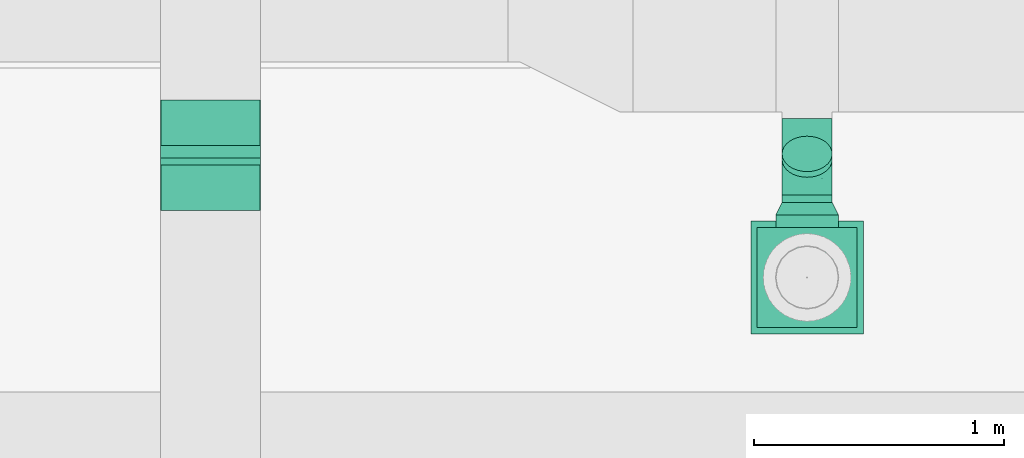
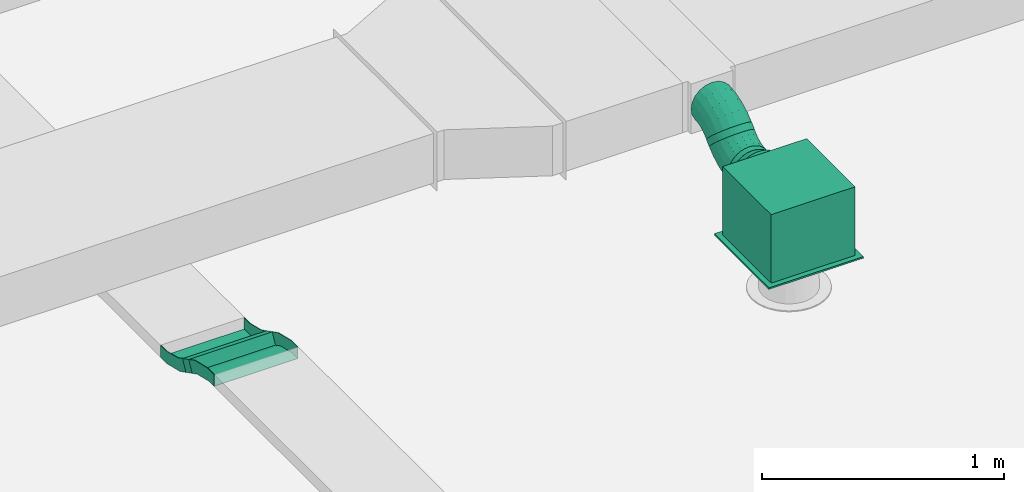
# One storey, part 276 of 302: 5 flow fittings, 3 flow segments, 1 flow terminal.
"""IFC2X3 building model written with IfcOpenShell, lengths in metres."""

from ifc_helpers import new_model, entity, si_unit, converted_unit, derived_unit, direction, frame, frame_2d, origin, origin_2d_with_axis, place, context, subcontext, project, spatial, rectangle, circle, extrude, faceted_brep, source, transform, mapped, material, material_list, type_object, type_shapes, element, save


model = new_model("IFC2X3")

# Units and contexts
model_context = context("Model", 3, precision=1e-05, world=origin(), true_north=direction((6.12303176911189e-17, 1.0)))
body_context = subcontext(model_context, "Body", "Model", "MODEL_VIEW")
ifc_project = project(units=[si_unit("LENGTHUNIT", "METRE"), si_unit("AREAUNIT", "SQUARE_METRE"), si_unit("VOLUMEUNIT", "CUBIC_METRE"), converted_unit("PLANEANGLEUNIT", "DEGREE", entity("IfcRatioMeasure", 0.0174532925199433), si_unit("PLANEANGLEUNIT", "RADIAN"), dimensions=[0, 0, 0, 0, 0, 0, 0]), si_unit("MASSUNIT", "GRAM", prefix="KILO"), derived_unit("MASSDENSITYUNIT", [(si_unit("MASSUNIT", "GRAM", prefix="KILO"), 1), (si_unit("LENGTHUNIT", "METRE"), -3)]), derived_unit("MOMENTOFINERTIAUNIT", [(si_unit("LENGTHUNIT", "METRE"), 4)]), si_unit("TIMEUNIT", "SECOND"), si_unit("FREQUENCYUNIT", "HERTZ"), si_unit("THERMODYNAMICTEMPERATUREUNIT", "DEGREE_CELSIUS"), derived_unit("THERMALTRANSMITTANCEUNIT", [(si_unit("MASSUNIT", "GRAM", prefix="KILO"), 1), (si_unit("THERMODYNAMICTEMPERATUREUNIT", "KELVIN"), -1), (si_unit("TIMEUNIT", "SECOND"), -3)]), derived_unit("VOLUMETRICFLOWRATEUNIT", [(si_unit("LENGTHUNIT", "METRE"), 3), (si_unit("TIMEUNIT", "SECOND"), -1)]), si_unit("ELECTRICCURRENTUNIT", "AMPERE"), si_unit("ELECTRICVOLTAGEUNIT", "VOLT"), si_unit("POWERUNIT", "WATT"), si_unit("FORCEUNIT", "NEWTON", prefix="KILO"), si_unit("ILLUMINANCEUNIT", "LUX"), si_unit("LUMINOUSFLUXUNIT", "LUMEN"), si_unit("LUMINOUSINTENSITYUNIT", "CANDELA"), derived_unit("USERDEFINED", [(si_unit("MASSUNIT", "GRAM", prefix="KILO"), -1), (si_unit("LENGTHUNIT", "METRE"), -2), (si_unit("TIMEUNIT", "SECOND"), 3), (si_unit("LUMINOUSFLUXUNIT", "LUMEN"), 1)]), derived_unit("LINEARVELOCITYUNIT", [(si_unit("LENGTHUNIT", "METRE"), 1), (si_unit("TIMEUNIT", "SECOND"), -1)]), si_unit("PRESSUREUNIT", "PASCAL"), derived_unit("USERDEFINED", [(si_unit("LENGTHUNIT", "METRE"), -2), (si_unit("MASSUNIT", "GRAM", prefix="KILO"), 1), (si_unit("TIMEUNIT", "SECOND"), -2)]), derived_unit("LINEARFORCEUNIT", [(si_unit("MASSUNIT", "GRAM", prefix="KILO"), 1), (si_unit("LENGTHUNIT", "METRE"), 1), (si_unit("TIMEUNIT", "SECOND"), -2), (si_unit("LENGTHUNIT", "METRE"), -1)]), derived_unit("PLANARFORCEUNIT", [(si_unit("MASSUNIT", "GRAM", prefix="KILO"), 1), (si_unit("LENGTHUNIT", "METRE"), 1), (si_unit("TIMEUNIT", "SECOND"), -2), (si_unit("LENGTHUNIT", "METRE"), -2)])], contexts=[model_context])

# Site, building, storey
site_placement = place(None, origin())
site = spatial("IfcSite", under=ifc_project, at=site_placement, Name="Default", CompositionType="ELEMENT")
building_placement = place(site_placement, origin())
building = spatial("IfcBuilding", under=site, at=building_placement, CompositionType="ELEMENT")
storey_placement = place(building_placement, frame((0.0, 0.0, -1.3)))
storey = spatial("IfcBuildingStorey", under=building, at=storey_placement, Name="00_EG", CompositionType="ELEMENT", Elevation=-1.3)

# Flow segment
cable_carrier_segment_type = type_object("IfcCableCarrierSegmentType", Name="Kabeltrasse mit Formteilen:Channel Cable Tray", PredefinedType="CABLETRAYSEGMENT")
flow_segment_1_placement = place(storey_placement, origin())
element("IfcFlowSegment", 1, at=flow_segment_1_placement, inside=storey, type_object=cable_carrier_segment_type, Name="Kabeltrasse mit Formteilen:Channel Cable Tray", ObjectType="Kabeltrasse mit Formteilen:Channel Cable Tray", context=body_context, shape_type="SweptSolid", body=[
    extrude(rectangle(XDim=0.0600000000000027, YDim=0.0578549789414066, at=frame_2d((1.80584713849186e-15, 1.22471477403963e-15), x_axis=(0.0, 1.0))), frame((-236.972611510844, 21.4502536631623, 4.79), z_axis=(1.0, 0.0, 0.0), x_axis=(0.0, -0.891006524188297, 0.453990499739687)), (0.0, 0.0, 1.0), 0.399999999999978),
])

# Flow fittings
ifc_material = material(Name="<Unnamed>")
cable_carrier_fitting_type_1 = type_object("IfcCableCarrierFittingType", Name="Kabeltrasse - Bogen außen vertikal:Standard", PredefinedType="NOTDEFINED", material=ifc_material)
shared_shape_1 = source(origin(), body_context, "Body", "Brep", [
    faceted_brep([(-0.103233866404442, -0.0300000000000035, 0.199999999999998), (-0.103233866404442, 0.0299999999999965, 0.199999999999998), (-0.103233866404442, 0.0299999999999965, -0.200000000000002), (-0.103233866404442, -0.0300000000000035, -0.200000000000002), (-0.103233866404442, -0.0300000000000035, -0.197460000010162), (-0.103233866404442, 0.0274600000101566, -0.197460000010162), (-0.103233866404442, 0.0274600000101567, 0.197460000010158), (-0.103233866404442, -0.0300000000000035, 0.197460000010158), (0.105601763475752, 0.0201369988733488, 0.199999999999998), (0.105601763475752, 0.0201369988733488, 0.197460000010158), (0.0795154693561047, 0.071334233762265, 0.197460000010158), (0.0795154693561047, 0.071334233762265, -0.197460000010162), (0.105601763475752, 0.0201369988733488, -0.197460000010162), (0.105601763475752, 0.0201369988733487, -0.200000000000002), (0.0783623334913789, 0.0735973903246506, -0.200000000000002), (0.0783623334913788, 0.0735973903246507, 0.199999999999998), (-0.0487892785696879, -0.0300000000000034, 0.199999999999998), (0.0570912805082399, -0.00458032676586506, 0.199999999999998), (0.036179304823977, 0.052104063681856, 0.199999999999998), (-0.0558907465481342, 0.0299999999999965, 0.199999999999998), (-0.0558907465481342, 0.0299999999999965, -0.200000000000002), (0.036179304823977, 0.052104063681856, -0.200000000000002), (0.0570912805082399, -0.00458032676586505, -0.200000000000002), (-0.0487892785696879, -0.0300000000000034, -0.200000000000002), (-0.0487892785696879, -0.0300000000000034, -0.197460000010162), (0.0570912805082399, -0.00458032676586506, -0.197460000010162), (0.0370645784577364, 0.0497044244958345, -0.197460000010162), (-0.0555901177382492, 0.0274600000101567, -0.197460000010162), (-0.0555901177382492, 0.0274600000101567, 0.197460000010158), (0.0370645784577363, 0.0497044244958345, 0.197460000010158), (0.0570912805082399, -0.00458032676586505, 0.197460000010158), (-0.0487892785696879, -0.0300000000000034, 0.197460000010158)], [[[0, 1, 2, 3, 4, 5, 6, 7]], [[8, 9, 10, 11, 12, 13, 14, 15]], [[1, 0, 16, 17, 8, 15, 18, 19]], [[2, 1, 19, 20]], [[3, 2, 20, 21, 14, 13, 22, 23]], [[4, 3, 23, 24]], [[5, 4, 24, 25, 12, 11, 26, 27]], [[6, 5, 27, 28]], [[7, 6, 28, 29, 10, 9, 30, 31]], [[0, 7, 31, 16]], [[20, 19, 18, 21]], [[24, 23, 22, 25]], [[28, 27, 26, 29]], [[16, 31, 30, 17]], [[21, 18, 15, 14]], [[25, 22, 13, 12]], [[29, 26, 11, 10]], [[17, 30, 9, 8]]]),
])
type_shapes(cable_carrier_fitting_type_1, [shared_shape_1])
flow_fitting_1_placement = place(storey_placement, frame((-236.772611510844, 21.332497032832, 4.85), z_axis=(1.0, 0.0, 0.0), x_axis=(0.0, -0.891006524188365, 0.453990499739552)))
element("IfcFlowFitting", 2, at=flow_fitting_1_placement, inside=storey, type_object=cable_carrier_fitting_type_1, material=ifc_material, Name="Kabeltrasse - Bogen außen vertikal:Standard", ObjectType="Kabeltrasse - Bogen außen vertikal:Standard", context=body_context, shape_type="MappedRepresentation", body=[
    mapped(shared_shape_1, transform((0.0, 0.0, 0.0), scale=1.0)),
])
cable_carrier_fitting_type_2 = type_object("IfcCableCarrierFittingType", Name="Kabeltrasse - Bogen innen vertikal:Standard", PredefinedType="NOTDEFINED", material=ifc_material)
shared_shape_2 = source(origin(), body_context, "Body", "Brep", [
    faceted_brep([(-0.103233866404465, 0.0299999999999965, 0.199999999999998), (-0.103233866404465, 0.0299999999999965, 0.197460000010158), (-0.103233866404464, -0.0274600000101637, 0.197460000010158), (-0.103233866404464, -0.0274600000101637, -0.197460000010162), (-0.103233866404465, 0.0299999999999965, -0.197460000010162), (-0.103233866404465, 0.0299999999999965, -0.200000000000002), (-0.103233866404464, -0.0300000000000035, -0.200000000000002), (-0.103233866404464, -0.0300000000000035, 0.199999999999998), (0.0783623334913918, 0.0735973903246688, 0.199999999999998), (0.10560176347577, 0.0201369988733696, 0.199999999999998), (0.10560176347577, 0.0201369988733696, -0.200000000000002), (0.0783623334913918, 0.0735973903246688, -0.200000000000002), (0.0783623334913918, 0.0735973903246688, -0.197460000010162), (0.104448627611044, 0.0224001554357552, -0.197460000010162), (0.104448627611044, 0.0224001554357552, 0.197460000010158), (0.0783623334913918, 0.0735973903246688, 0.197460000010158), (-0.0558907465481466, 0.0299999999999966, 0.199999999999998), (-0.0558907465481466, 0.0299999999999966, 0.197460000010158), (0.036179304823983, 0.0521040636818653, 0.197460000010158), (0.0562060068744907, -0.00218068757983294, 0.197460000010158), (-0.0490899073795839, -0.0274600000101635, 0.197460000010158), (-0.0490899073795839, -0.0274600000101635, -0.197460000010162), (0.0562060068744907, -0.00218068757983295, -0.197460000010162), (0.036179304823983, 0.0521040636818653, -0.197460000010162), (-0.0558907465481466, 0.0299999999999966, -0.197460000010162), (-0.0558907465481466, 0.0299999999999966, -0.200000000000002), (0.036179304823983, 0.0521040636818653, -0.200000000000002), (0.0570912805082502, -0.00458032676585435, -0.200000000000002), (-0.0487892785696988, -0.0300000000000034, -0.200000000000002), (-0.0487892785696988, -0.0300000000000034, 0.199999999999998), (0.0570912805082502, -0.00458032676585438, 0.199999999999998), (0.036179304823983, 0.0521040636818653, 0.199999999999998)], [[[0, 1, 2, 3, 4, 5, 6, 7]], [[8, 9, 10, 11, 12, 13, 14, 15]], [[1, 0, 16, 17]], [[2, 1, 17, 18, 15, 14, 19, 20]], [[3, 2, 20, 21]], [[4, 3, 21, 22, 13, 12, 23, 24]], [[5, 4, 24, 25]], [[6, 5, 25, 26, 11, 10, 27, 28]], [[7, 6, 28, 29]], [[0, 7, 29, 30, 9, 8, 31, 16]], [[17, 16, 31, 18]], [[21, 20, 19, 22]], [[25, 24, 23, 26]], [[29, 28, 27, 30]], [[18, 31, 8, 15]], [[22, 19, 14, 13]], [[26, 23, 12, 11]], [[30, 27, 10, 9]]]),
])
type_shapes(cable_carrier_fitting_type_2, [shared_shape_2])
flow_fitting_2_placement = place(storey_placement, frame((-236.772611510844, 21.5680102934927, 4.72999999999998), z_axis=(1.0, 0.0, 0.0), x_axis=(0.0, 0.89100652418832, -0.453990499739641)))
element("IfcFlowFitting", 3, at=flow_fitting_2_placement, inside=storey, type_object=cable_carrier_fitting_type_2, material=ifc_material, Name="Kabeltrasse - Bogen innen vertikal:Standard", ObjectType="Kabeltrasse - Bogen innen vertikal:Standard", context=body_context, shape_type="MappedRepresentation", body=[
    mapped(shared_shape_2, transform((0.0, 0.0, 0.0), scale=1.0)),
])

# Flow segments
duct_segment_type = type_object("IfcDuctSegmentType", Name="Rund:STR_Segment_RND_GS_EA", PredefinedType="NOTDEFINED")
flow_segment_2_placement = place(storey_placement, origin())
element("IfcFlowSegment", 4, at=flow_segment_2_placement, inside=storey, type_object=duct_segment_type, Name="Rund:STR_Segment_RND_GS_EA", ObjectType="Rund:STR_Segment_RND_GS_EA", context=body_context, shape_type="SweptSolid", body=[
    extrude(circle(Radius=0.1, at=origin_2d_with_axis()), frame((-234.389904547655, 21.4325516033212, 5.04357873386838), z_axis=(0.0, 0.707106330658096, 0.707107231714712), x_axis=(1.0, 0.0, 0.0)), (0.0, 0.0, 1.0), 0.0323041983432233),
])
flow_segment_3_placement = place(storey_placement, origin())
element("IfcFlowSegment", 5, at=flow_segment_3_placement, inside=storey, type_object=duct_segment_type, Name="Rund:STR_Segment_RND_GS_EA", ObjectType="Rund:STR_Segment_RND_GS_EA", context=body_context, shape_type="SweptSolid", body=[
    extrude(circle(Radius=0.1, at=origin_2d_with_axis()), frame((-234.389904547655, 21.2618155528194, 4.985), z_axis=(0.0, 1.0, 0.0), x_axis=(1.0, 0.0, 0.0)), (0.0, 0.0, 1.0), 0.0293146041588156),
])

# Flow fittings
duct_fitting_type_1 = type_object("IfcDuctFittingType", Name="STR_RND_Transition:STR_Transition_RND_GS_EA", PredefinedType="NOTDEFINED", material=ifc_material)
shared_shape_3 = source(origin(), body_context, "Body", "Brep", [
    faceted_brep([(0.0500000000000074, -0.0587785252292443, -0.0809016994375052), (0.0500000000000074, -0.0309016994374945, -0.0951056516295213), (0.0500000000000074, 0.0, -0.10000000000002), (0.0500000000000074, 0.0309016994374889, -0.0951056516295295), (0.0500000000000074, 0.058778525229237, -0.0809016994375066), (0.0500000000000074, 0.0809016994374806, -0.0587785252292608), (0.0500000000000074, 0.0951056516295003, -0.0309016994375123), (0.0500000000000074, 0.0999999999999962, 0.0), (0.0500000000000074, 0.0951056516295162, 0.0309016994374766), (0.0500000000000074, 0.0809016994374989, 0.0587785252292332), (0.0500000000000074, 0.0587785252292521, 0.0809016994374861), (0.0500000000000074, 0.0309016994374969, 0.0951056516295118), (0.0500000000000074, 0.0, 0.0999999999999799), (0.0500000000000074, -0.0309016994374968, 0.0951056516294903), (0.0500000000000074, -0.058778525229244, 0.0809016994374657), (0.0500000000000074, -0.0809016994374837, 0.0587785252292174), (0.0500000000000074, -0.0951056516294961, 0.0309016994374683), (0.0500000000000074, -0.100000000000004, 0.0), (0.0500000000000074, -0.0951056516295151, -0.030901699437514), (0.0500000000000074, -0.0809016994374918, -0.0587785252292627), (0.0, -0.124999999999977, 0.0), (0.0, -0.118882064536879, 0.038627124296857), (0.0, -0.101127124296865, 0.073473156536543), (0.0, -0.0734731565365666, 0.101127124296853), (0.0, -0.0386271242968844, 0.118882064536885), (0.0, 0.0, 0.125000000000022), (0.0, 0.0386271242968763, 0.11888206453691), (0.0, 0.0734731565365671, 0.101127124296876), (0.0, 0.101127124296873, 0.0734731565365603), (0.0, 0.118882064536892, 0.038627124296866), (0.0, 0.124999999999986, 0.0), (0.0, 0.118882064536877, -0.0386271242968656), (0.0, 0.101127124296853, -0.0734731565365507), (0.0, 0.0734731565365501, -0.101127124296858), (0.0, 0.0386271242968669, -0.118882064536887), (0.0, 0.0, -0.124999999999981), (0.0, -0.0386271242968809, -0.118882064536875), (0.0, -0.0734731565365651, -0.101127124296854), (0.0, -0.101127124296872, -0.0734731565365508), (0.0, -0.118882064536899, -0.0386271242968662)], [[[0, 1, 2, 3, 4, 5, 6, 7, 8, 9, 10, 11, 12, 13, 14, 15, 16, 17, 18, 19]], [[20, 21, 22, 23, 24, 25, 26, 27, 28, 29, 30, 31, 32, 33, 34, 35, 36, 37, 38, 39]], [[26, 25, 12, 11]], [[27, 26, 11, 10]], [[10, 9, 28, 27]], [[8, 7, 30, 29]], [[9, 8, 29, 28]], [[21, 20, 17, 16]], [[22, 21, 16, 15]], [[15, 14, 23, 22]], [[13, 12, 25, 24]], [[14, 13, 24, 23]], [[36, 35, 2, 1]], [[37, 36, 1, 0]], [[0, 19, 38, 37]], [[18, 17, 20, 39]], [[19, 18, 39, 38]], [[31, 30, 7, 6]], [[32, 31, 6, 5]], [[5, 4, 33, 32]], [[3, 2, 35, 34]], [[4, 3, 34, 33]]]),
])
type_shapes(duct_fitting_type_1, [shared_shape_3])
flow_fitting_3_placement = place(storey_placement, frame((-234.389904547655, 21.2118155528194, 4.985), z_axis=(0.0, 0.0, 1.0), x_axis=(0.0, 1.0, 0.0)))
element("IfcFlowFitting", 6, at=flow_fitting_3_placement, inside=storey, type_object=duct_fitting_type_1, material=ifc_material, Name="STR_RND_Transition:STR_Transition_RND_GS_EA", ObjectType="STR_RND_Transition:STR_Transition_RND_GS_EA", context=body_context, shape_type="MappedRepresentation", body=[
    mapped(shared_shape_3, transform((0.0, 0.0, 0.0), scale=1.0)),
])
duct_fitting_type_2 = type_object("IfcDuctFittingType", Name="STR_RND_Elbow:STR_Elbow_RND_GS_EA", PredefinedType="NOTDEFINED", material=ifc_material)
shared_shape_4 = source(origin(), body_context, "Body", "Brep", [
    faceted_brep([(-0.0438246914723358, 0.00384295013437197, 0.0999999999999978), (-0.0498533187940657, 0.0341508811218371, 0.0951056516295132), (-0.0828427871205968, 0.0309016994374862, 0.0951056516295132), (-0.0828427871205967, 0.0, 0.0999999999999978), (-0.0552918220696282, 0.061492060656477, 0.0809016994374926), (-0.0828427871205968, 0.0587785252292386, 0.0809016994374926), (-0.0596078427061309, 0.0831901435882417, 0.0587785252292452), (-0.0828427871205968, 0.0809016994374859, 0.0587785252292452), (-0.0623788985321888, 0.097121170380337, 0.0309016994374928), (-0.0828427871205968, 0.0951056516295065, 0.0309016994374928), (-0.0633337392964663, 0.101921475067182, 0.0), (-0.0828427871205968, 0.0999999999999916, 0.0), (-0.0623788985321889, 0.0971211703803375, -0.030901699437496), (-0.0828427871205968, 0.095105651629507, -0.030901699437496), (-0.059607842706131, 0.0831901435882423, -0.0587785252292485), (-0.0828427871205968, 0.0809016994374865, -0.0587785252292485), (-0.0552918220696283, 0.0614920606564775, -0.0809016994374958), (-0.0828427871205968, 0.0587785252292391, -0.0809016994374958), (-0.0498533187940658, 0.0341508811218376, -0.0951056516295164), (-0.0828427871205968, 0.0309016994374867, -0.0951056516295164), (-0.043824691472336, 0.00384295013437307, -0.100000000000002), (-0.0828427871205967, 0.0, -0.100000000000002), (-0.037796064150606, -0.0264649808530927, -0.0951056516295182), (-0.0828427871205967, -0.0309016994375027, -0.0951056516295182), (-0.0323575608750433, -0.0538061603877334, -0.0809016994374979), (-0.0828427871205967, -0.0587785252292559, -0.0809016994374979), (-0.0280415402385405, -0.075504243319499, -0.0587785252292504), (-0.0828427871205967, -0.080901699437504, -0.0587785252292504), (-0.0252704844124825, -0.0894352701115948, -0.0309016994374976), (-0.0828427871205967, -0.0951056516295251, -0.0309016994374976), (-0.0243156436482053, -0.0942355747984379, 0.0), (-0.0828427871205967, -0.100000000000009, 0.0), (-0.0252704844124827, -0.0894352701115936, 0.0309016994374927), (-0.0828427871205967, -0.0951056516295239, 0.0309016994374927), (-0.0280415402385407, -0.0755042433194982, 0.0587785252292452), (-0.0828427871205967, -0.0809016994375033, 0.0587785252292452), (-0.0323575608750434, -0.0538061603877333, 0.0809016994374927), (-0.0828427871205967, -0.0587785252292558, 0.0809016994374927), (-0.0377960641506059, -0.0264649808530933, 0.0951056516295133), (-0.0828427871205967, -0.0309016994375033, 0.0951056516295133), (-0.00630604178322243, 0.0152241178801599, 0.0999999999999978), (-0.0181316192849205, 0.0437735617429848, 0.0951056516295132), (-0.028799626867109, 0.0695283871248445, 0.0809016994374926), (-0.037265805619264, 0.0899675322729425, 0.0587785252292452), (-0.0427014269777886, 0.103090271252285, 0.0309016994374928), (-0.0445744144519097, 0.107612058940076, 0.0), (-0.0427014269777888, 0.103090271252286, -0.030901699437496), (-0.0372658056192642, 0.089967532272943, -0.0587785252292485), (-0.0287996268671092, 0.069528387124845, -0.0809016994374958), (-0.0181316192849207, 0.0437735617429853, -0.0951056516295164), (-0.00630604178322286, 0.015224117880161, -0.100000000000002), (0.00551953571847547, -0.0133253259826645, -0.0951056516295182), (0.0161875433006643, -0.039080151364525, -0.0809016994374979), (0.0246537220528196, -0.0595192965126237, -0.0587785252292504), (0.0300893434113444, -0.0726420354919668, -0.0309016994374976), (0.0319623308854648, -0.077163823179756, 0.0), (0.0300893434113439, -0.0726420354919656, 0.0309016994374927), (0.0246537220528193, -0.059519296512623, 0.0587785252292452), (0.0161875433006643, -0.0390801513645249, 0.0809016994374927), (0.0055195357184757, -0.0133253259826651, 0.0951056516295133), (0.0282713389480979, 0.0337061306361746, 0.0999999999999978), (0.0111032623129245, 0.0593999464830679, 0.0951056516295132), (-0.00438428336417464, 0.0825786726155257, 0.0809016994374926), (-0.0166752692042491, 0.100973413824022, 0.0587785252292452), (-0.0245665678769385, 0.112783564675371, 0.0309016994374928), (-0.0272857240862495, 0.116853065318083, 0.0), (-0.0245665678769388, 0.112783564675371, -0.030901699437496), (-0.0166752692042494, 0.100973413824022, -0.0587785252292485), (-0.00438428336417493, 0.0825786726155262, -0.0809016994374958), (0.0111032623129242, 0.0593999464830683, -0.0951056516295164), (0.0282713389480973, 0.0337061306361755, -0.100000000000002), (0.0454394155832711, 0.00801231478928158, -0.0951056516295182), (0.0609269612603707, -0.0151664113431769, -0.0809016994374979), (0.0732179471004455, -0.0335611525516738, -0.0587785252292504), (0.0811092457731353, -0.0453713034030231, -0.0309016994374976), (0.0838284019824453, -0.049440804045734, 0.0), (0.0811092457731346, -0.0453713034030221, 0.0309016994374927), (0.0732179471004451, -0.0335611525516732, 0.0587785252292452), (0.0609269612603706, -0.0151664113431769, 0.0809016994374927), (0.0454394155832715, 0.00801231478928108, 0.0951056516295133), (0.0585786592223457, 0.0585787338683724, 0.0999999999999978), (0.0367278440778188, 0.0804295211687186, 0.0951056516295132), (0.0170159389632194, 0.10014140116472, 0.0809016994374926), (0.00137248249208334, 0.115784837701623, 0.0587785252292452), (-0.00867123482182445, 0.125828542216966, 0.0309016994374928), (-0.0121320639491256, 0.129289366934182, 0.0), (-0.00867123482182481, 0.125828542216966, -0.030901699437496), (0.00137248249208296, 0.115784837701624, -0.0587785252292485), (0.0170159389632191, 0.10014140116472, -0.0809016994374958), (0.0367278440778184, 0.080429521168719, -0.0951056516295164), (0.0585786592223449, 0.0585787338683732, -0.100000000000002), (0.0804294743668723, 0.0367279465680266, -0.0951056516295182), (0.100141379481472, 0.0170160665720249, -0.0809016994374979), (0.115784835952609, 0.00137263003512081, -0.0587785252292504), (0.125828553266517, -0.00867107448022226, -0.0309016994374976), (0.129289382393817, -0.0121318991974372, 0.0), (0.125828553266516, -0.00867107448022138, 0.0309016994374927), (0.115784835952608, 0.00137263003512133, 0.0587785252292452), (0.100141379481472, 0.017016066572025, 0.0809016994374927), (0.0804294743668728, 0.0367279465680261, 0.0951056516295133)], [[[0, 1, 2, 3]], [[1, 4, 5, 2]], [[4, 6, 7, 5]], [[6, 8, 9, 7]], [[8, 10, 11, 9]], [[10, 12, 13, 11]], [[12, 14, 15, 13]], [[14, 16, 17, 15]], [[16, 18, 19, 17]], [[18, 20, 21, 19]], [[20, 22, 23, 21]], [[22, 24, 25, 23]], [[24, 26, 27, 25]], [[26, 28, 29, 27]], [[28, 30, 31, 29]], [[30, 32, 33, 31]], [[32, 34, 35, 33]], [[34, 36, 37, 35]], [[36, 38, 39, 37]], [[38, 0, 3, 39]], [[40, 41, 1, 0]], [[41, 42, 4, 1]], [[42, 43, 6, 4]], [[43, 44, 8, 6]], [[44, 45, 10, 8]], [[45, 46, 12, 10]], [[46, 47, 14, 12]], [[47, 48, 16, 14]], [[48, 49, 18, 16]], [[49, 50, 20, 18]], [[50, 51, 22, 20]], [[51, 52, 24, 22]], [[52, 53, 26, 24]], [[53, 54, 28, 26]], [[54, 55, 30, 28]], [[55, 56, 32, 30]], [[56, 57, 34, 32]], [[57, 58, 36, 34]], [[58, 59, 38, 36]], [[59, 40, 0, 38]], [[60, 61, 41, 40]], [[61, 62, 42, 41]], [[62, 63, 43, 42]], [[63, 64, 44, 43]], [[64, 65, 45, 44]], [[65, 66, 46, 45]], [[66, 67, 47, 46]], [[67, 68, 48, 47]], [[68, 69, 49, 48]], [[69, 70, 50, 49]], [[70, 71, 51, 50]], [[71, 72, 52, 51]], [[72, 73, 53, 52]], [[73, 74, 54, 53]], [[74, 75, 55, 54]], [[75, 76, 56, 55]], [[76, 77, 57, 56]], [[77, 78, 58, 57]], [[78, 79, 59, 58]], [[79, 60, 40, 59]], [[80, 81, 61, 60]], [[81, 82, 62, 61]], [[82, 83, 63, 62]], [[83, 84, 64, 63]], [[84, 85, 65, 64]], [[85, 86, 66, 65]], [[86, 87, 67, 66]], [[87, 88, 68, 67]], [[88, 89, 69, 68]], [[89, 90, 70, 69]], [[90, 91, 71, 70]], [[91, 92, 72, 71]], [[92, 93, 73, 72]], [[93, 94, 74, 73]], [[94, 95, 75, 74]], [[95, 96, 76, 75]], [[96, 97, 77, 76]], [[97, 98, 78, 77]], [[98, 99, 79, 78]], [[99, 80, 60, 79]], [[3, 2, 5, 7, 9, 11, 13, 15, 17, 19, 21, 23, 25, 27, 29, 31, 33, 35, 37, 39]], [[99, 98, 97, 96, 95, 94, 93, 92, 91, 90, 89, 88, 87, 86, 85, 84, 83, 82, 81, 80]]]),
])
type_shapes(duct_fitting_type_2, [shared_shape_4])
for number, where, z_axis, x_axis in (
    (7, (-234.389904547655, 21.3739729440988, 4.98500000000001), (1.0, 0.0, 0.0), (0.0, 1.0, 0.0)),
    (8, (-234.389904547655, 21.5139727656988, 5.12499999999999), (-1.0, 0.0, 0.0), (0.0, 0.707106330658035, 0.707107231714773)),
):
    element("IfcFlowFitting", number, at=place(storey_placement, frame(where, z_axis=z_axis, x_axis=x_axis)), inside=storey, type_object=duct_fitting_type_2, material=ifc_material, Name="STR_RND_Elbow:STR_Elbow_RND_GS_EA", ObjectType="STR_RND_Elbow:STR_Elbow_RND_GS_EA", context=body_context, shape_type="MappedRepresentation", body=[
        mapped(shared_shape_4, transform((0.0, 0.0, 0.0), scale=1.0)),
    ])

# Flow terminal
ifc_material_list = material_list([ifc_material, ifc_material, ifc_material])
air_terminal_type = type_object("IfcAirTerminalType", Name="Drallauslass Zuluft seitlich:600 quadratisch", PredefinedType="NOTDEFINED", material=ifc_material_list)
shared_shape_5 = source(origin(), body_context, "Body", "SweptSolid", [
    extrude(rectangle(XDim=0.450000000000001, YDim=0.449999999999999, at=origin_2d_with_axis()), frame((0.0, 0.0, 2.692), z_axis=(0.0, 0.0, 1.0), x_axis=(0.0, 1.0, 0.0)), (0.0, 0.0, 1.0), 0.00800000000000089),
    extrude(circle(Radius=0.125, at=frame_2d((1.22275294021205e-18, -5.41433564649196e-16), x_axis=(1.0, 0.0))), frame((-0.25, 0.0, 2.89500000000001), z_axis=(1.0, 0.0, 0.0), x_axis=(0.0, -1.0, 0.0)), (0.0, 0.0, 1.0), 0.0499999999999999),
    extrude(rectangle(XDim=0.4, YDim=0.399999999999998, at=origin_2d_with_axis()), frame((0.0, 0.0, 2.7), z_axis=(0.0, 0.0, 1.0), x_axis=(0.0, 1.0, 0.0)), (0.0, 0.0, 1.0), 0.345000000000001),
])
type_shapes(air_terminal_type, [shared_shape_5])
flow_terminal_placement = place(storey_placement, frame((-234.389904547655, 20.9618155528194, 2.08999999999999), z_axis=(0.0, 0.0, 1.0), x_axis=(0.0, -1.0, 0.0)))
element("IfcFlowTerminal", 9, at=flow_terminal_placement, inside=storey, type_object=air_terminal_type, material=ifc_material, Name="Drallauslass Zuluft seitlich:600 quadratisch", ObjectType="Drallauslass Zuluft seitlich:600 quadratisch", context=body_context, shape_type="MappedRepresentation", body=[
    mapped(shared_shape_5, transform((0.0, 0.0, 0.0), scale=1.0)),
])

save(model, "model.ifc")
